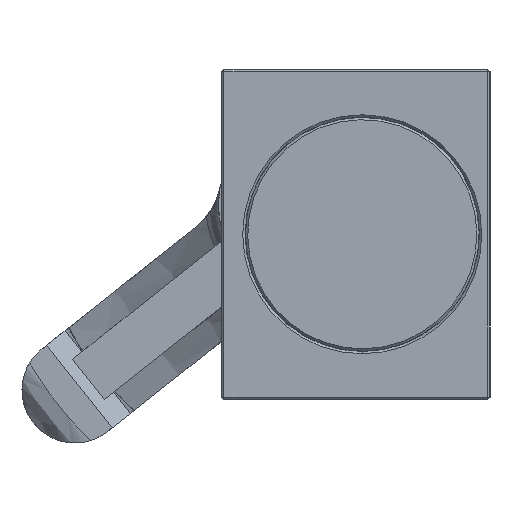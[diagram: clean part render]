
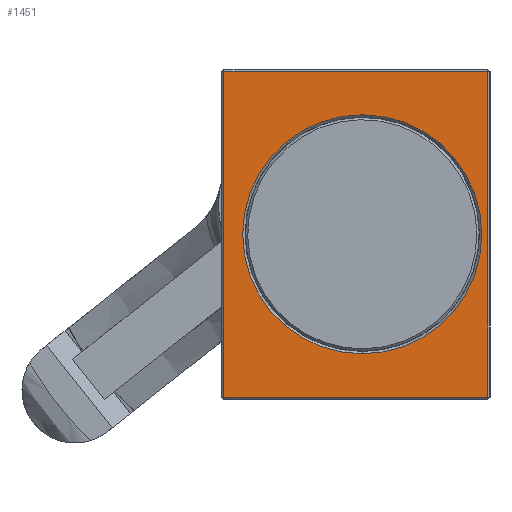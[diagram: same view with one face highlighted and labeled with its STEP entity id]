
A CAD part, left-side view. The second image highlights one B-rep face of the part: STEP entity #1451.
In plain terms, the highlighted planar face has unit normal (-1, 0, 0).
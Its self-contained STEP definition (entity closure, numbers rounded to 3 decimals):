
#613 = CARTESIAN_POINT ( 'NONE',  ( -53.082, 10.9, 76.726 ) ) ;
#673 = DIRECTION ( 'NONE',  ( 0., 0., 1. ) ) ;
#935 = ORIENTED_EDGE ( 'NONE', *, *, #6017, .T. ) ;
#1093 = ORIENTED_EDGE ( 'NONE', *, *, #4150, .T. ) ;
#1230 = FACE_OUTER_BOUND ( 'NONE', #5755, .T. ) ;
#1387 = LINE ( 'NONE', #3761, #1448 ) ;
#1448 = VECTOR ( 'NONE', #1500, 1000. ) ;
#1451 = ADVANCED_FACE ( 'NONE', ( #1230, #7138 ), #3557, .T. ) ;
#1500 = DIRECTION ( 'NONE',  ( 0., -1., 0. ) ) ;
#1616 = EDGE_CURVE ( 'NONE', #4232, #5426, #5996, .T. ) ;
#1692 = CIRCLE ( 'NONE', #5671, 10.2 ) ;
#1774 = CARTESIAN_POINT ( 'NONE',  ( -53.082, 10.9, 86.926 ) ) ;
#1796 = AXIS2_PLACEMENT_3D ( 'NONE', #3672, #5961, #2391 ) ;
#1836 = DIRECTION ( 'NONE',  ( 0., 0., 1. ) ) ;
#2064 = LINE ( 'NONE', #2648, #4748 ) ;
#2212 = ORIENTED_EDGE ( 'NONE', *, *, #5621, .T. ) ;
#2228 = EDGE_CURVE ( 'NONE', #6629, #7491, #2064, .T. ) ;
#2391 = DIRECTION ( 'NONE',  ( 0., 0., 1. ) ) ;
#2648 = CARTESIAN_POINT ( 'NONE',  ( -53.082, 22.7, 62.626 ) ) ;
#2727 = VERTEX_POINT ( 'NONE', #7182 ) ;
#3013 = CARTESIAN_POINT ( 'NONE',  ( -53.082, 0.2, 90.826 ) ) ;
#3101 = CARTESIAN_POINT ( 'NONE',  ( -53.082, 10.9, 76.726 ) ) ;
#3102 = DIRECTION ( 'NONE',  ( 0., 1., 0. ) ) ;
#3557 = PLANE ( 'NONE',  #1796 ) ;
#3652 = CARTESIAN_POINT ( 'NONE',  ( -53.082, 22.9, 90.626 ) ) ;
#3672 = CARTESIAN_POINT ( 'NONE',  ( -53.082, 22.9, 90.826 ) ) ;
#3751 = CARTESIAN_POINT ( 'NONE',  ( -53.082, 0.2, 62.826 ) ) ;
#3761 = CARTESIAN_POINT ( 'NONE',  ( -53.082, 22.9, 62.826 ) ) ;
#3904 = ORIENTED_EDGE ( 'NONE', *, *, #2228, .T. ) ;
#4150 = EDGE_CURVE ( 'NONE', #5463, #2727, #7400, .T. ) ;
#4169 = DIRECTION ( 'NONE',  ( 1., 0., 0. ) ) ;
#4232 = VERTEX_POINT ( 'NONE', #3751 ) ;
#4292 = CARTESIAN_POINT ( 'NONE',  ( -53.082, 22.7, 90.626 ) ) ;
#4306 = CARTESIAN_POINT ( 'NONE',  ( -53.082, 0.2, 90.626 ) ) ;
#4738 = EDGE_CURVE ( 'NONE', #5426, #6629, #6123, .T. ) ;
#4748 = VECTOR ( 'NONE', #5044, 1000. ) ;
#4846 = DIRECTION ( 'NONE',  ( 0., 0., 1. ) ) ;
#4950 = ORIENTED_EDGE ( 'NONE', *, *, #4738, .T. ) ;
#5044 = DIRECTION ( 'NONE',  ( 0., 0., -1. ) ) ;
#5372 = VECTOR ( 'NONE', #3102, 1000. ) ;
#5426 = VERTEX_POINT ( 'NONE', #4306 ) ;
#5463 = VERTEX_POINT ( 'NONE', #1774 ) ;
#5621 = EDGE_CURVE ( 'NONE', #2727, #5463, #1692, .T. ) ;
#5671 = AXIS2_PLACEMENT_3D ( 'NONE', #3101, #4169, #4846 ) ;
#5714 = ORIENTED_EDGE ( 'NONE', *, *, #1616, .T. ) ;
#5755 = EDGE_LOOP ( 'NONE', ( #935, #5714, #4950, #3904 ) ) ;
#5777 = VECTOR ( 'NONE', #673, 1000. ) ;
#5961 = DIRECTION ( 'NONE',  ( -1., 0., 0. ) ) ;
#5996 = LINE ( 'NONE', #3013, #5777 ) ;
#6017 = EDGE_CURVE ( 'NONE', #7491, #4232, #1387, .T. ) ;
#6123 = LINE ( 'NONE', #3652, #5372 ) ;
#6200 = EDGE_LOOP ( 'NONE', ( #1093, #2212 ) ) ;
#6623 = AXIS2_PLACEMENT_3D ( 'NONE', #613, #7215, #1836 ) ;
#6629 = VERTEX_POINT ( 'NONE', #4292 ) ;
#7138 = FACE_BOUND ( 'NONE', #6200, .T. ) ;
#7182 = CARTESIAN_POINT ( 'NONE',  ( -53.082, 10.9, 66.526 ) ) ;
#7215 = DIRECTION ( 'NONE',  ( 1., 0., 0. ) ) ;
#7400 = CIRCLE ( 'NONE', #6623, 10.2 ) ;
#7491 = VERTEX_POINT ( 'NONE', #7743 ) ;
#7743 = CARTESIAN_POINT ( 'NONE',  ( -53.082, 22.7, 62.826 ) ) ;
